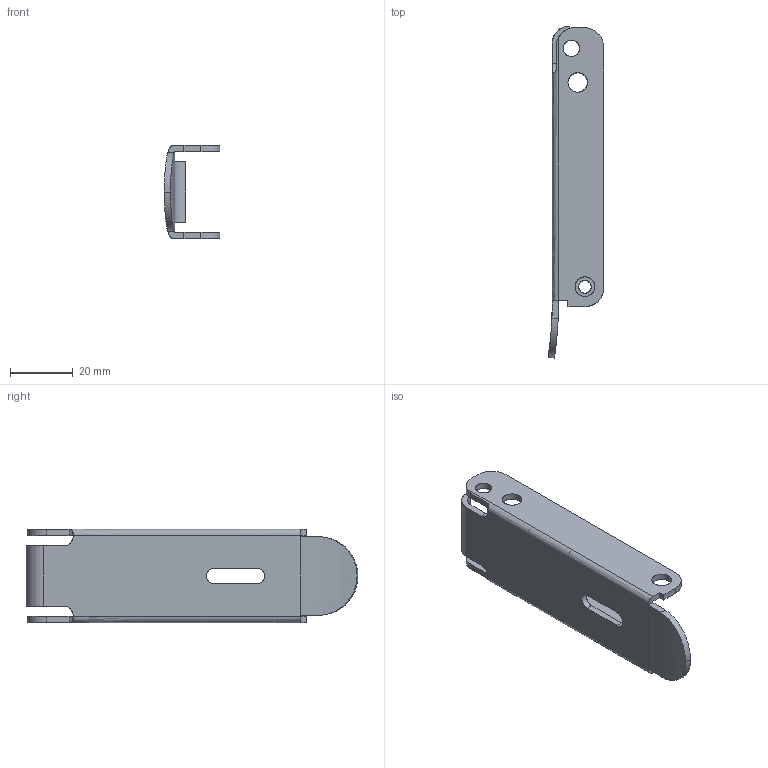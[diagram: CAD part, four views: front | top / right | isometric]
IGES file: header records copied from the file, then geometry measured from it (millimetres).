
Start section: SolidWorks IGES FILE using analytic representation for surfaces
Global section: file name: C:\Documents and Settings\lecoutey\Bureau\GO 80\80.010.10.IGS; native system: SolidWorks 2004 by SolidWorks Corporation; preprocessor: Version 5.3; author: lecoutey; date: 050329.120158; units: millimetre
Bounding box: 17.7 x 105.8 x 29.8 mm (x, y, z)
Surface area: 11213.7 mm2 (no closed solid volume)
Topology: 0 solids, 0 shells, 60 faces, 1014 edges, 1014 vertices
Faces by surface type: revolution 33, bspline 27
